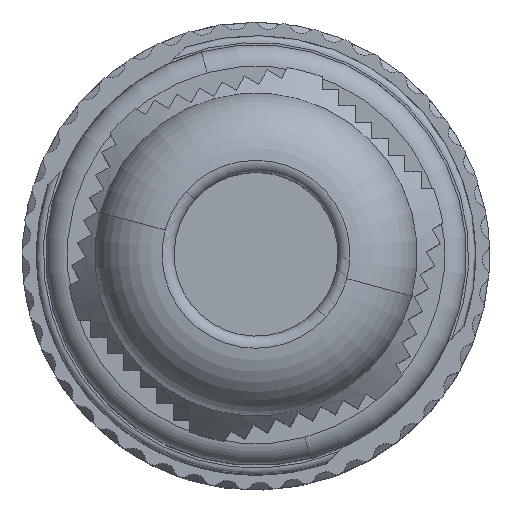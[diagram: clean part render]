
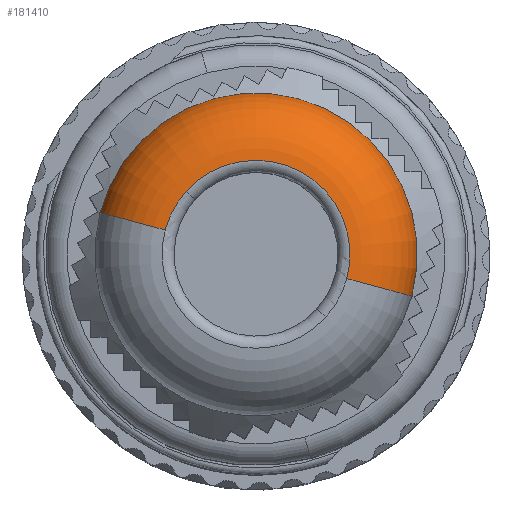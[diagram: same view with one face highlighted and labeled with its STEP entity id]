
A CAD part, top view. The second image highlights one B-rep face of the part: STEP entity #181410.
In plain terms, the highlighted toroidal (fillet/blend) face has major radius 3.9 mm and minor radius 3 mm.
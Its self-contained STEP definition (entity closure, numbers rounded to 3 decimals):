
#176940=CARTESIAN_POINT('',(5.419,47.622,-5.976)
);
#176950=VERTEX_POINT('',#176940);
#180890=CARTESIAN_POINT('',(12.319,47.622,5.976)
);
#180900=VERTEX_POINT('',#180890);
#180930=CARTESIAN_POINT('',(8.869,47.622,
0.));
#180940=DIRECTION('',(0.,1.,0.));
#180950=DIRECTION('',(0.5,0.,0.866));
#180960=AXIS2_PLACEMENT_3D('',#180930,#180940,#180950);
#180970=CIRCLE('',#180960,6.9);
#181030=CARTESIAN_POINT('',(8.869,47.62,
0.));
#181040=DIRECTION('',(0.,1.,0.));
#181050=DIRECTION('',(0.5,0.,
0.866));
#181060=AXIS2_PLACEMENT_3D('',#181030,#181040,#181050);
#181070=TOROIDAL_SURFACE('',#181060,3.9,3.);
#181080=CARTESIAN_POINT('',(10.819,47.62,
3.377));
#181090=DIRECTION('',(0.866,0.,-0.5));
#181100=DIRECTION('',(-0.5,0.,-0.866));
#181110=AXIS2_PLACEMENT_3D('',#181080,#181090,#181100);
#181120=CIRCLE('',#181110,3.);
#181130=CARTESIAN_POINT('',(10.879,44.623,
3.481));
#181140=VERTEX_POINT('',#181130);
#181150=EDGE_CURVE('',#180900,#181140,#181120,.T.);
#181160=ORIENTED_EDGE('',*,*,#181150,.T.);
#181170=EDGE_CURVE('',#180900,#176950,#180970,.T.);
#181180=ORIENTED_EDGE('',*,*,#181170,.F.);
#181190=CARTESIAN_POINT('',(6.919,47.62,
-3.377));
#181200=DIRECTION('',(-0.866,0.,0.5));
#181210=DIRECTION('',(0.5,0.,0.866));
#181220=AXIS2_PLACEMENT_3D('',#181190,#181200,#181210);
#181230=CIRCLE('',#181220,3.);
#181240=CARTESIAN_POINT('',(6.859,44.623,
-3.481));
#181250=VERTEX_POINT('',#181240);
#181260=EDGE_CURVE('',#176950,#181250,#181230,.T.);
#181270=ORIENTED_EDGE('',*,*,#181260,.F.);
#181280=CARTESIAN_POINT('',(8.869,44.623,
0.));
#181290=DIRECTION('',(0.,1.,0.));
#181300=DIRECTION('',(0.839,0.,
0.545));
#181310=AXIS2_PLACEMENT_3D('',#181280,#181290,#181300);
#181320=CIRCLE('',#181310,4.02);
#181330=CARTESIAN_POINT('',(12.241,44.623,
2.189));
#181340=VERTEX_POINT('',#181330);
#181350=EDGE_CURVE('',#181340,#181250,#181320,.T.);
#181360=ORIENTED_EDGE('',*,*,#181350,.T.);
#181370=EDGE_CURVE('',#181140,#181340,#181320,.T.);
#181380=ORIENTED_EDGE('',*,*,#181370,.T.);
#181390=EDGE_LOOP('',(#181380,#181360,#181270,#181180,#181160));
#181400=FACE_OUTER_BOUND('',#181390,.T.);
#181410=ADVANCED_FACE('',(#181400),#181070,.T.);
